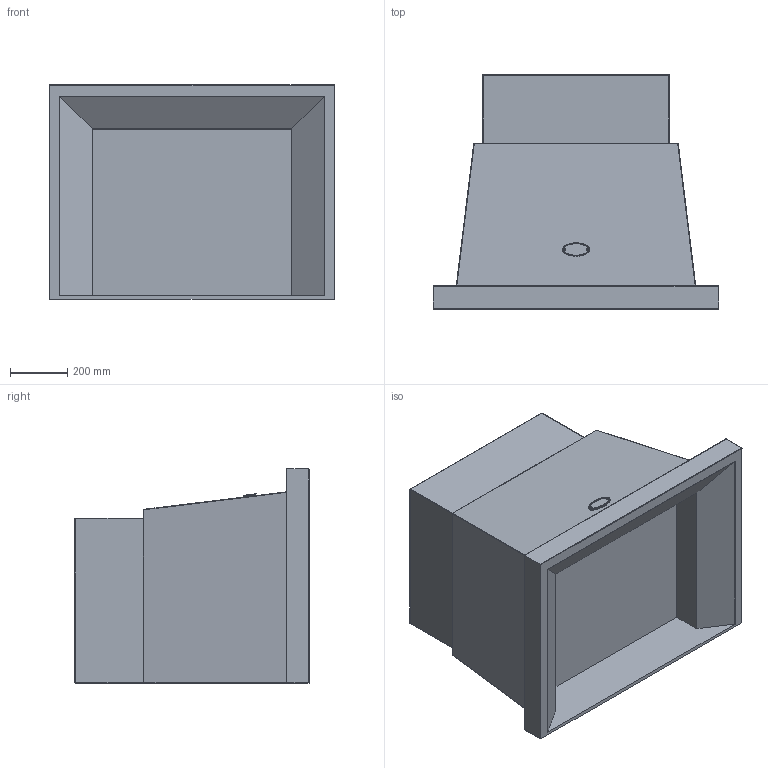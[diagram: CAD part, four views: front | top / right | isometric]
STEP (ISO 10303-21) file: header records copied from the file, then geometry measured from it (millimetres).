
FILE_DESCRIPTION((''),'2;1');
FILE_NAME('EXPORT_LHM1000_ASM','2020-10-27T09:38:52',('r.avril'),(''),'CREO PARAMETRIC BY PTC INC, 2017260','CREO PARAMETRIC BY PTC INC, 2017260','');
FILE_SCHEMA(('AP203_CONFIGURATION_CONTROLLED_3D_DESIGN_OF_MECHANICAL_PARTS_AND_ASSEMBLIES_MIM_LF { 1 0 10303 403 2 1 2 }'));
Length unit declared in the file: millimetre
Products named in the file (7): EXPORT_LHM1000; 65650001; 65049009; 65049009_GRAVURE; 65049009_ASM; 6531792; EXPORT_LHM1000_ASM
Assembly tree (7 placements, depth 3):
  EXPORT_LHM1000_ASM
    EXPORT_LHM1000
    65650001
    65049009_ASM
      65049009
      65049009_GRAVURE
    6531792  x2
Bounding box: 1000 x 820 x 750 mm (x, y, z)
Volume: 239528423.8 mm3; surface area: 4298856.7 mm2
Topology: 5 solids, 7 shells, 149 faces, 331 edges, 196 vertices
Faces by surface type: cylinder 60, plane 49, cone 14, sphere 12, bspline 10, torus 2, extrusion 2
Entity records: 8141 total; most frequent: CARTESIAN_POINT 2892, DIRECTION 725, ORIENTED_EDGE 594, EDGE_CURVE 299, AXIS2_PLACEMENT_3D 275, PROPERTY_DEFINITION 270, REPRESENTATION 265, PROPERTY_DEFINITION_REPRESENTATION 265
